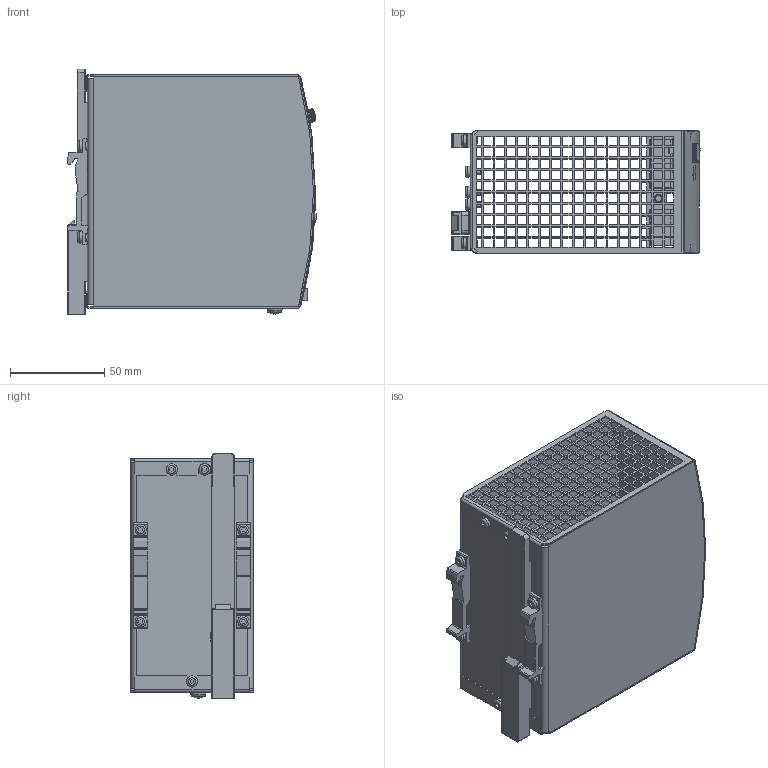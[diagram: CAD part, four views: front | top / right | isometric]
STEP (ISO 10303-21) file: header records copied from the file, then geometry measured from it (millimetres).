
FILE_DESCRIPTION(/* description */ ('Cover','CAx-IF Rec.Pracs.---Representation and Presentation of Product Manufacturing Information (PMI)---3.8---2014-02-18'),/* implementation_level */ '2;1');
FILE_NAME(/* name */ 'C:\Users\rahns\Desktop\md3_cps20_481.stp',/* time_stamp */ '2016-11-07T11:57:48+01:00',/* author */ ('rahns'),/* organization */ (''),/* preprocessor_version */ 'ST-DEVELOPER v16.1',/* originating_system */ 'Autodesk Inventor 2016',/* authorisation */ '');
FILE_SCHEMA (('AP242_MANAGED_MODEL_BASED_3D_ENGINEERING_MIM_LF { 1 0 10303 442 1 1 4 }'));
Products named in the file (15): HOUSING COVER 382.00; HOUSING BODY 382.00; MKT_XT-LP2BK-D1; MKT_LP3BK-D2; MKT_T HOLDER; MKT_SLIDER; MKT_POTI COVER; JUMPER; TERMINAL 2P-R3; MKT_SCREW 3x6; MKT_SCREW 4x8; JUMPER BRACKET; FRONTFOIL 382.00; MKT_LED GN; 382.05
Assembly tree (22 placements, depth 2):
  382.05
    HOUSING COVER 382.00
    HOUSING BODY 382.00
    MKT_XT-LP2BK-D1  x2
    MKT_LP3BK-D2
    MKT_T HOLDER  x2
    MKT_SLIDER
    MKT_POTI COVER
    JUMPER
    TERMINAL 2P-R3
    MKT_SCREW 3x6  x7
    MKT_SCREW 4x8
    JUMPER BRACKET
    FRONTFOIL 382.00
    MKT_LED GN
Bounding box: 132.07 x 65 x 130.5 mm (x, y, z)
Volume: 93469.8 mm3; surface area: 139436.4 mm2
Topology: 23 solids, 23 shells, 3430 faces, 9639 edges, 6383 vertices
Faces by surface type: plane 2597, bspline 503, cylinder 270, torus 26, cone 21, sphere 13
Full cylindrical faces by diameter (mm): 1 x2, 2.45 x3, 2.696 x1, 3 x7, 3.1 x4, 3.145 x1, 3.5 x1, 3.621 x1, 4 x1, 4.355 x1, 4.5 x2, 4.6 x1, 5.15 x7, 6 x7
Entity records: 114264 total; most frequent: CARTESIAN_POINT 32211, ORIENTED_EDGE 17936, DIRECTION 14344, EDGE_CURVE 8968, LINE 7026, VECTOR 7026, VERTEX_POINT 5969, EDGE_LOOP 4083
